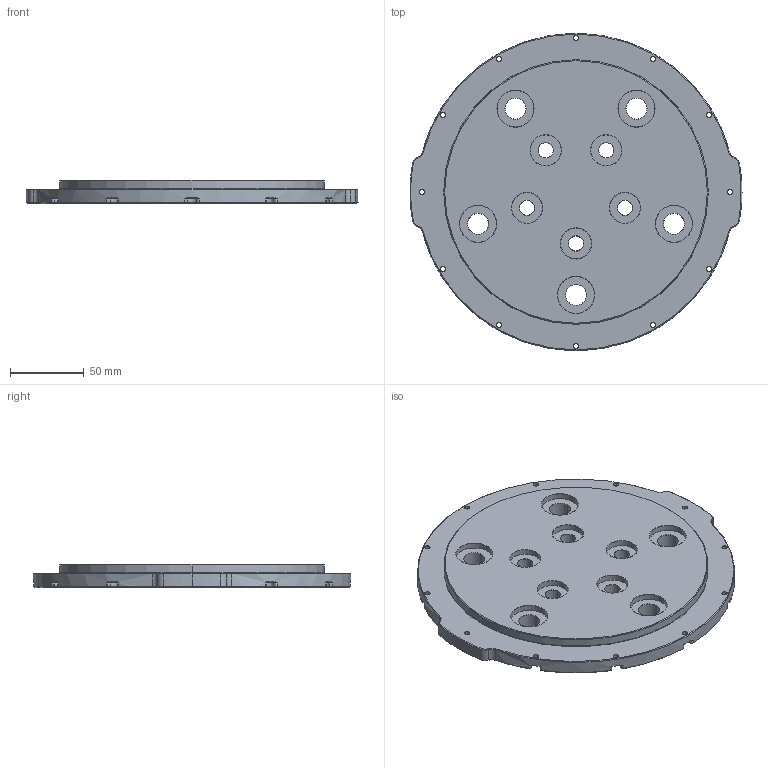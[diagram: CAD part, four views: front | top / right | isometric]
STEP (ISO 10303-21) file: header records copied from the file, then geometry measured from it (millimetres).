
FILE_DESCRIPTION (( 'STEP AP214' ), '1' );
FILE_NAME ('WTE8-END-CAP-5xM10-5xM14.STEP', '2023-11-16T20:47:21', ( '' ), ( '' ), 'SwSTEP 2.0', 'SolidWorks 2022', '' );
FILE_SCHEMA (( 'AUTOMOTIVE_DESIGN' ));
Length unit declared in the file: millimetre
Products named in the file (1): WTE8-END-CAP-5xM10-5xM14
Bounding box: 225.7 x 215.7 x 16 mm (x, y, z)
Volume: 487706.4 mm3; surface area: 89428.7 mm2
Topology: 1 solids, 1 shells, 426 faces, 990 edges, 559 vertices
Faces by surface type: cone 204, cylinder 127, torus 50, plane 25, bspline 20
Entity records: 15046 total; most frequent: CARTESIAN_POINT 5137, DIRECTION 2299, ORIENTED_EDGE 1940, AXIS2_PLACEMENT_3D 984, EDGE_CURVE 970, CIRCLE 577, VERTEX_POINT 559, EDGE_LOOP 483
